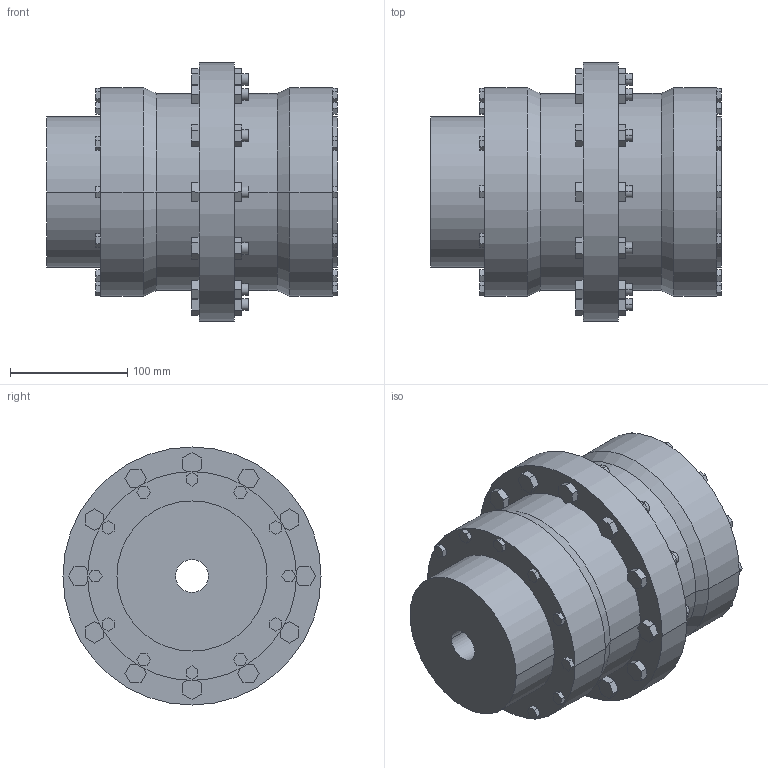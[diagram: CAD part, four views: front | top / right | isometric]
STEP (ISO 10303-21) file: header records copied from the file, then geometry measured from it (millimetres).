
FILE_DESCRIPTION((''),'2;1');
FILE_NAME('A19715200-0_ASM','2019-05-23T',('AB_Roschiwal'),('RENK AG'),'PRO/ENGINEER BY PARAMETRIC TECHNOLOGY CORPORATION, 2015440','PRO/ENGINEER BY PARAMETRIC TECHNOLOGY CORPORATION, 2015440','');
FILE_SCHEMA(('CONFIG_CONTROL_DESIGN'));
Length unit declared in the file: millimetre
Products named in the file (3): SBK80_GEHAEUSE; SBK80_NABE; A19715200-0_ASM
Assembly tree (3 placements, depth 2):
  A19715200-0_ASM
    SBK80_GEHAEUSE
    SBK80_NABE  x2
Bounding box: 248 x 220 x 220 mm (x, y, z)
Volume: 4360977.8 mm3; surface area: 455691 mm2
Topology: 3 solids, 3 shells, 422 faces, 1036 edges, 688 vertices
Faces by surface type: plane 362, cylinder 56, cone 4
Entity records: 12052 total; most frequent: CARTESIAN_POINT 2100, ORIENTED_EDGE 2024, DIRECTION 1940, EDGE_CURVE 1012, VECTOR 916, LINE 916, VERTEX_POINT 672, AXIS2_PLACEMENT_3D 512
